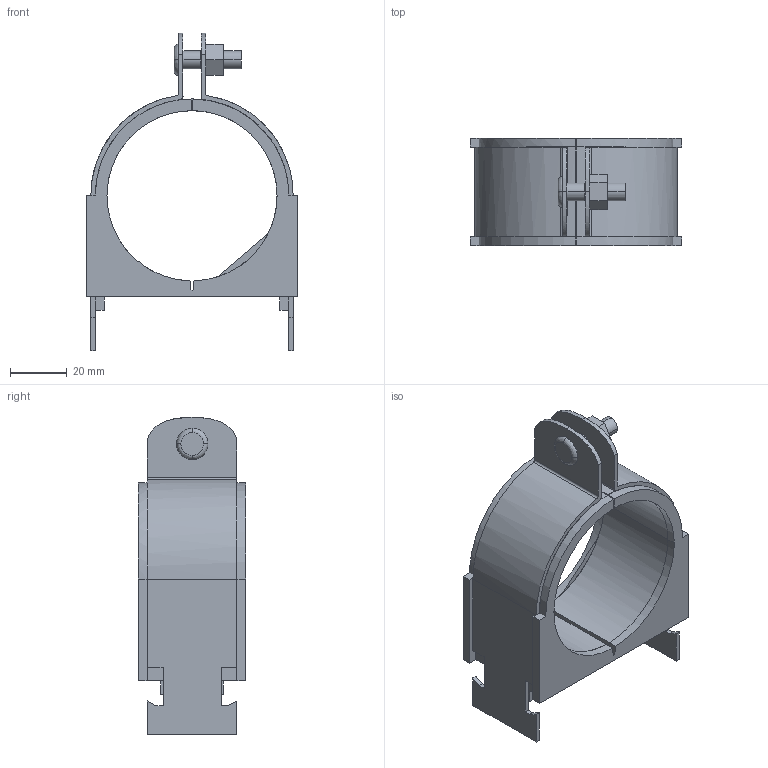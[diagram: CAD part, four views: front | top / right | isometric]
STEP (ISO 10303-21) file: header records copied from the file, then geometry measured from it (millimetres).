
FILE_DESCRIPTION(('TurboCAD Mac Pro'),'Build 980');
FILE_NAME('038N044.stp',' ',(''),(''),'ACIS Interop','IMSI','TurboCAD Mac Pro BY IMSI, INCORPORATED');
FILE_SCHEMA(('automotive_design'));
Length unit declared in the file: inch
Products named in the file (3): 1; 2; 3
Bounding box: 74.8 x 38.1 x 112.35 mm (x, y, z)
Volume: 70570.5 mm3; surface area: 38575.7 mm2
Topology: 3 solids, 3 shells, 146 faces, 380 edges, 244 vertices
Faces by surface type: plane 100, bspline 46
Entity records: 7126 total; most frequent: CARTESIAN_POINT 1715, ORIENTED_EDGE 760, DIRECTION 490, EDGE_CURVE 380, STYLED_ITEM 337, PRESENTATION_STYLE_ASSIGNMENT 337, COLOUR_RGB 337, LINE 276
